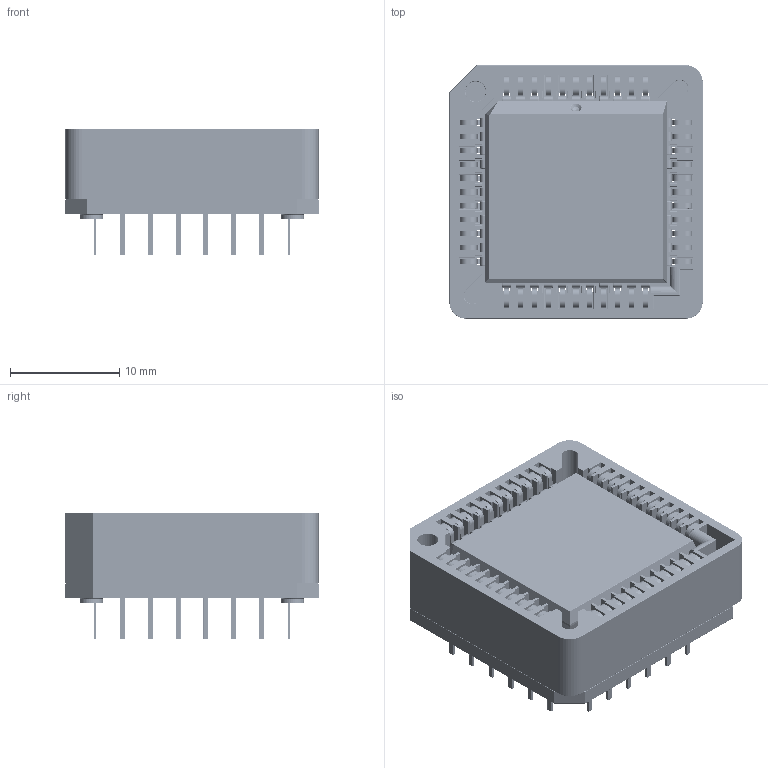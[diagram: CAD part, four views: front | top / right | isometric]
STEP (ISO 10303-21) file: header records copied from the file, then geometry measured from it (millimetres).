
FILE_DESCRIPTION(/* description */ (''),/* implementation_level */ '2;1');
FILE_NAME(/* name */ 'D:\CAD\Inventor\Altium\IC Packages\PLCC-44 Socket with IC Package.stp',/* time_stamp */ '2020-02-14T19:13:21+01:00',/* author */ ('diwou'),/* organization */ (''),/* preprocessor_version */ 'ST-DEVELOPER v18',/* originating_system */ 'Autodesk Inventor 2020',/* authorisation */ '');
FILE_SCHEMA (('AUTOMOTIVE_DESIGN { 1 0 10303 214 3 1 1 }'));
Products named in the file (3): PLCC-44 Socket with IC Package; PLCC-44 Socket; PLCC-44 Package
Assembly tree (2 placements, depth 2):
  PLCC-44 Socket with IC Package
    PLCC-44 Socket
    PLCC-44 Package
Bounding box: 23.18 x 23.18 x 11.5 mm (x, y, z)
Volume: 3161.5 mm3; surface area: 6198.6 mm2
Topology: 46 solids, 46 shells, 8253 faces, 18991 edges, 10803 vertices
Faces by surface type: cylinder 3635, plane 2178, torus 1199, sphere 947, bspline 294
Full cylindrical faces by diameter (mm): 0.65 x44, 1.9 x1, 2.1 x4, 3 x4
Entity records: 243215 total; most frequent: CARTESIAN_POINT 45180, DIRECTION 43681, ORIENTED_EDGE 37816, EDGE_CURVE 18908, AXIS2_PLACEMENT_3D 17234, VERTEX_POINT 10803, LINE 9213, VECTOR 9213
